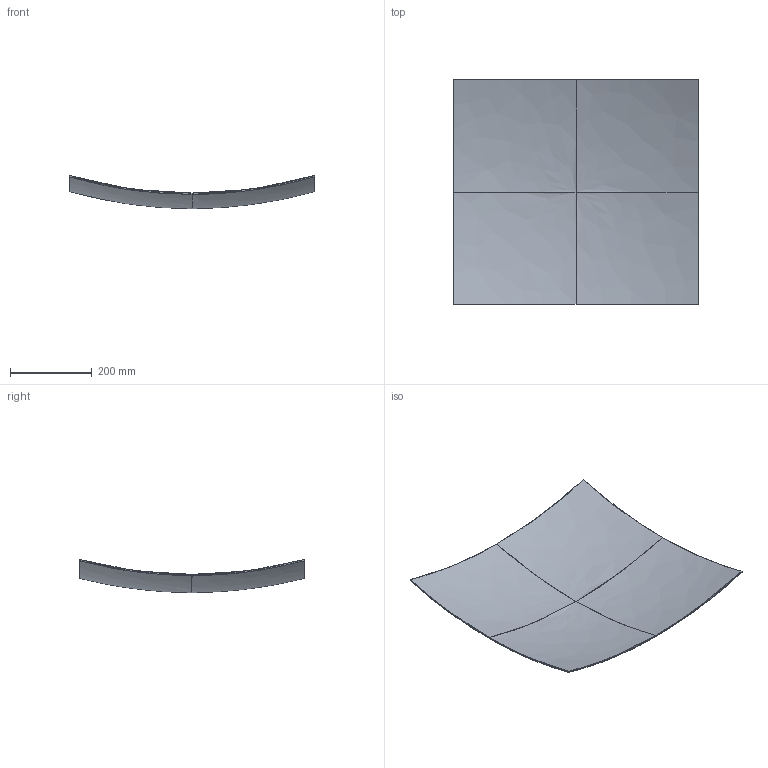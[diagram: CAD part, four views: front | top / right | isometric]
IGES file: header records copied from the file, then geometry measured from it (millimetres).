
Start section: C
Global section: file name: mirror_alone.igs; native system:  By UGS Corp.; preprocessor: XPlus GENERIC/IGES 3.0; author: Author; organization: Title; date: 20110219.171011; units: millimetre
Bounding box: 600 x 550 x 81.05 mm (x, y, z)
Surface area: 683021.6 mm2 (no closed solid volume)
Topology: 0 solids, 0 shells, 12 faces, 64 edges, 56 vertices
Faces by surface type: bspline 12
